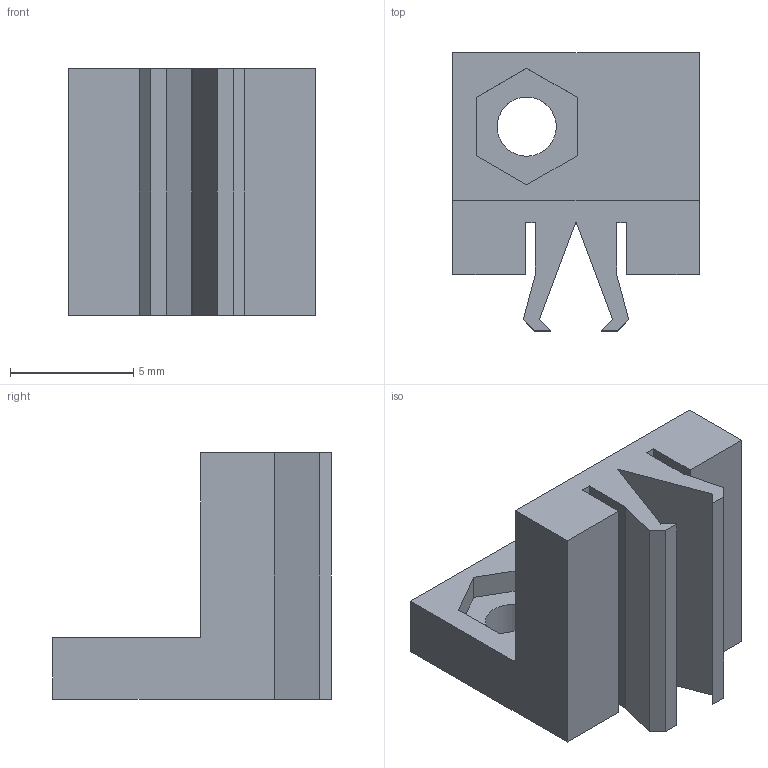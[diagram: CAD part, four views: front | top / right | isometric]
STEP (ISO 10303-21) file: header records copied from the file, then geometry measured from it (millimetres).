
FILE_DESCRIPTION(/* description */ (''),/* implementation_level */ '2;1');
FILE_NAME(/* name */ 'C:/Users/priba/Downloads/Brick1x1l3.step',/* time_stamp */ '2020-06-09T21:50:54+02:00',/* author */ (''),/* organization */ (''),/* preprocessor_version */ 'ST-DEVELOPER v18.1',/* originating_system */ 'Autodesk Translation Framework v9.3.0.1241',/* authorisation */ '');
FILE_SCHEMA (('AUTOMOTIVE_DESIGN { 1 0 10303 214 3 1 1 }'));
Length unit declared in the file: millimetre
Products named in the file (1): Brick1x1l3
Bounding box: 10 x 11.31 x 10 mm (x, y, z)
Volume: 428.6 mm3; surface area: 699.3 mm2
Topology: 1 solids, 1 shells, 34 faces, 93 edges, 62 vertices
Faces by surface type: plane 33, cylinder 1
Full cylindrical faces by diameter (mm): 2.4 x1
Entity records: 1085 total; most frequent: CARTESIAN_POINT 190, ORIENTED_EDGE 186, DIRECTION 165, EDGE_CURVE 93, LINE 91, VECTOR 91, VERTEX_POINT 62, EDGE_LOOP 37
